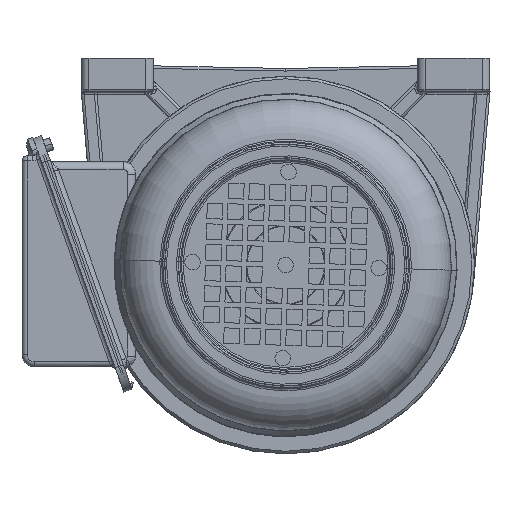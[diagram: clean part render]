
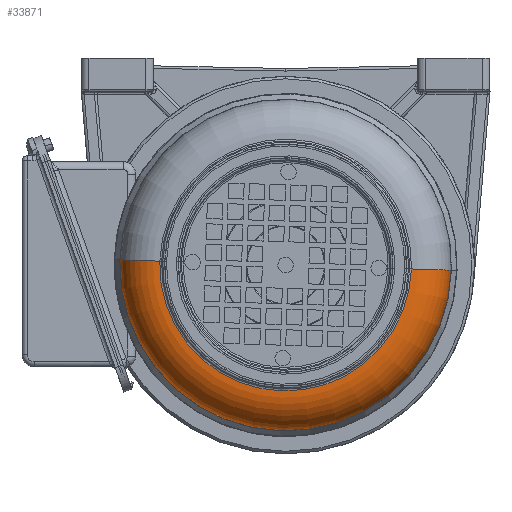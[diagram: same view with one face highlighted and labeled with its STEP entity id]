
A CAD part, front view. The second image highlights one B-rep face of the part: STEP entity #33871.
In plain terms, the highlighted toroidal (fillet/blend) face has major radius 48.673 mm and minor radius 15.331 mm.
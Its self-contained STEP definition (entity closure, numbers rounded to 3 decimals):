
#1206 = CIRCLE ( 'NONE', #25182, 15.331 ) ;
#2753 = CARTESIAN_POINT ( 'NONE',  ( -15., 0., -64. ) ) ;
#4277 = CARTESIAN_POINT ( 'NONE',  ( -15., 0., 0. ) ) ;
#4687 = DIRECTION ( 'NONE',  ( 0., 1., 0. ) ) ;
#5609 = EDGE_CURVE ( 'NONE', #42282, #27041, #5683, .T. ) ;
#5683 = CIRCLE ( 'NONE', #29653, 64. ) ;
#6599 = ORIENTED_EDGE ( 'NONE', *, *, #28012, .T. ) ;
#7338 = CIRCLE ( 'NONE', #12819, 15.331 ) ;
#8095 = CARTESIAN_POINT ( 'NONE',  ( -15.325, 0., 0. ) ) ;
#8225 = DIRECTION ( 'NONE',  ( 0., 0., -1. ) ) ;
#9891 = DIRECTION ( 'NONE',  ( 0., 0., 1. ) ) ;
#11307 = FACE_OUTER_BOUND ( 'NONE', #25407, .T. ) ;
#12819 = AXIS2_PLACEMENT_3D ( 'NONE', #24533, #37623, #8225 ) ;
#12928 = VERTEX_POINT ( 'NONE', #18964 ) ;
#15069 = CIRCLE ( 'NONE', #39066, 48.659 ) ;
#15545 = EDGE_CURVE ( 'NONE', #23515, #42282, #1206, .T. ) ;
#17348 = DIRECTION ( 'NONE',  ( -1., 0., 0. ) ) ;
#17755 = DIRECTION ( 'NONE',  ( 0., 0., 1. ) ) ;
#18964 = CARTESIAN_POINT ( 'NONE',  ( 0.006, 0., 48.659 ) ) ;
#19116 = CARTESIAN_POINT ( 'NONE',  ( 0.006, 0., -48.659 ) ) ;
#19953 = CARTESIAN_POINT ( 'NONE',  ( -15., 0., 64. ) ) ;
#21168 = DIRECTION ( 'NONE',  ( -1., 0., 0. ) ) ;
#23515 = VERTEX_POINT ( 'NONE', #19116 ) ;
#24533 = CARTESIAN_POINT ( 'NONE',  ( -15.325, 0., 48.673 ) ) ;
#25182 = AXIS2_PLACEMENT_3D ( 'NONE', #34076, #4687, #17755 ) ;
#25407 = EDGE_LOOP ( 'NONE', ( #33651, #25901, #6599, #33659 ) ) ;
#25901 = ORIENTED_EDGE ( 'NONE', *, *, #32269, .T. ) ;
#26196 = CARTESIAN_POINT ( 'NONE',  ( 0.006, 0., 0. ) ) ;
#27041 = VERTEX_POINT ( 'NONE', #19953 ) ;
#28012 = EDGE_CURVE ( 'NONE', #12928, #27041, #7338, .T. ) ;
#29653 = AXIS2_PLACEMENT_3D ( 'NONE', #4277, #17348, #30443 ) ;
#30443 = DIRECTION ( 'NONE',  ( 0., 0., 1. ) ) ;
#30928 = TOROIDAL_SURFACE ( 'NONE', #36418, 48.673, 15.331 ) ;
#32269 = EDGE_CURVE ( 'NONE', #23515, #12928, #15069, .T. ) ;
#33651 = ORIENTED_EDGE ( 'NONE', *, *, #15545, .F. ) ;
#33659 = ORIENTED_EDGE ( 'NONE', *, *, #5609, .F. ) ;
#33871 = ADVANCED_FACE ( 'NONE', ( #11307 ), #30928, .T. ) ;
#34076 = CARTESIAN_POINT ( 'NONE',  ( -15.325, 0., -48.673 ) ) ;
#34270 = DIRECTION ( 'NONE',  ( 0., 0., 1. ) ) ;
#36418 = AXIS2_PLACEMENT_3D ( 'NONE', #8095, #21168, #34270 ) ;
#37623 = DIRECTION ( 'NONE',  ( 0., -1., 0. ) ) ;
#39066 = AXIS2_PLACEMENT_3D ( 'NONE', #26196, #39296, #9891 ) ;
#39296 = DIRECTION ( 'NONE',  ( -1., 0., 0. ) ) ;
#42282 = VERTEX_POINT ( 'NONE', #2753 ) ;
